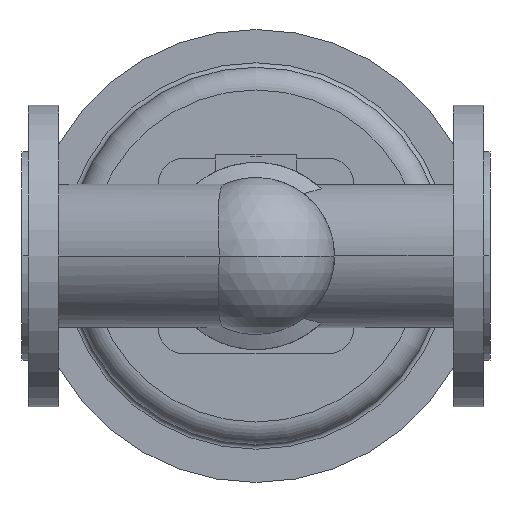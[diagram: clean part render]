
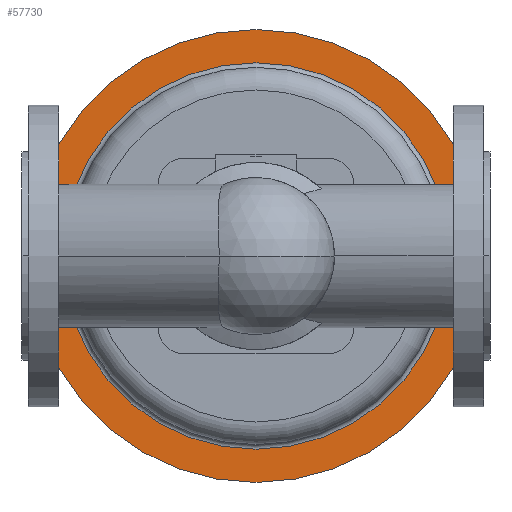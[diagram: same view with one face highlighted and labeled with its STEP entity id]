
A CAD part, front view. The second image highlights one B-rep face of the part: STEP entity #57730.
In plain terms, the highlighted planar face has unit normal (0, -1, 0).
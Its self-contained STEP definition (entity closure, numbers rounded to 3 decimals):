
#57130=CARTESIAN_POINT('',(155.,690.5,0.));
#57140=DIRECTION('',(0.,1.,0.));
#57150=DIRECTION('',(1.,0.,0.));
#57160=AXIS2_PLACEMENT_3D('',#57130,#57140,#57150);
#57170=CIRCLE('',#57160,128.);
#57180=CARTESIAN_POINT('',(155.,690.5,-128.));
#57190=VERTEX_POINT('',#57180);
#57200=CARTESIAN_POINT('',(27.,690.5,0.));
#57210=VERTEX_POINT('',#57200);
#57220=EDGE_CURVE('',#57190,#57210,#57170,.T.);
#57380=CARTESIAN_POINT('',(283.,690.5,0.));
#57390=VERTEX_POINT('',#57380);
#57420=EDGE_CURVE('',#57390,#57190,#57170,.T.);
#57470=CARTESIAN_POINT('',(294.,690.5,0.));
#57480=DIRECTION('',(0.,-1.,0.));
#57490=DIRECTION('',(-1.,0.,0.));
#57500=AXIS2_PLACEMENT_3D('',#57470,#57480,#57490);
#57510=PLANE('',#57500);
#57520=CARTESIAN_POINT('',(155.,690.5,0.));
#57530=DIRECTION('',(0.,1.,0.));
#57540=DIRECTION('',(1.,0.,0.));
#57550=AXIS2_PLACEMENT_3D('',#57520,#57530,#57540);
#57560=CIRCLE('',#57550,150.);
#57570=CARTESIAN_POINT('',(5.,690.5,0.));
#57580=VERTEX_POINT('',#57570);
#57590=CARTESIAN_POINT('',(305.,690.5,0.));
#57600=VERTEX_POINT('',#57590);
#57610=EDGE_CURVE('',#57580,#57600,#57560,.T.);
#57620=ORIENTED_EDGE('',*,*,#57610,.F.);
#57630=EDGE_CURVE('',#57600,#57580,#57560,.T.);
#57640=ORIENTED_EDGE('',*,*,#57630,.F.);
#57650=EDGE_LOOP('',(#57640,#57620));
#57660=FACE_OUTER_BOUND('',#57650,.T.);
#57670=EDGE_CURVE('',#57210,#57390,#57170,.T.);
#57680=ORIENTED_EDGE('',*,*,#57670,.T.);
#57690=ORIENTED_EDGE('',*,*,#57220,.T.);
#57700=ORIENTED_EDGE('',*,*,#57420,.T.);
#57710=EDGE_LOOP('',(#57700,#57690,#57680));
#57720=FACE_BOUND('',#57710,.T.);
#57730=ADVANCED_FACE('',(#57660,#57720),#57510,.T.);
